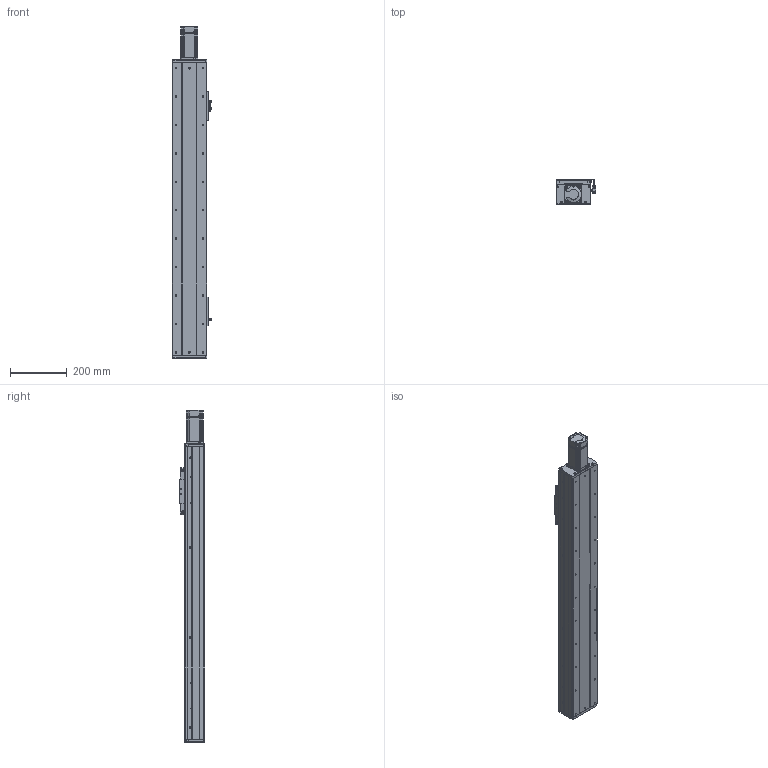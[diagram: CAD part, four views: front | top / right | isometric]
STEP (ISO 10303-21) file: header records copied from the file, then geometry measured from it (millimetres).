
FILE_DESCRIPTION (( 'STEP AP203' ), '1' );
FILE_NAME ('RY120F-L1620-300-MK.SLDASM_750.step', '2021-03-02T06:02:17', ( '盈信电脑' ), ( '东莞市道滘镇水果街19号' ), 'SwSTEP 2.0', 'SolidWorks 2012', '' );
FILE_SCHEMA (( 'CONFIG_CONTROL_DESIGN' ));
Products named in the file (19): RY120F-L1620-300-MK.SLDASM_750; RY120F-臏賑輸 16蹟譫; 滅袉蝶18-28; 672嫖萇羲壽假蚾釱; FY120F詩湍揤踡輸; RY80俋离覜茼え; RY120F綴裔啣(臏璃ㄘ; 滅袉蝶18-24; RY120F-詩湍幗謫粣; 覜茼ん672; 侂狟400W侜督萇儂; RY120F祥凄詩滅鳥裔; 15; RY120F眻蟀ヶ裔啣; 絳寢賑輸EGH15; RY120F-300-倰第裔啣_750; RY120F滅鳥詩湍-300-MK_750; RY120F-臏賑輸奻釱; RY120F-300-倰第菁釱_750
Assembly tree (25 placements, depth 3):
  RY120F-L1620-300-MK.SLDASM_750
    RY120F-300-倰第菁釱_750
    RY120F-300-倰第裔啣_750  x2
    RY120F滅鳥詩湍-300-MK_750
    絳寢賑輸EGH15  x2
    RY120F-臏賑輸奻釱
    侂狟400W侜督萇儂
      15
    RY120F眻蟀ヶ裔啣
    RY120F祥凄詩滅鳥裔
    滅袉蝶18-24
    RY120F綴裔啣(臏璃ㄘ
    RY120F-詩湍幗謫粣
    覜茼ん672  x3
    672嫖萇羲壽假蚾釱  x2
    RY80俋离覜茼え
    FY120F詩湍揤踡輸  x2
    RY120F-臏賑輸 16蹟譫
    滅袉蝶18-28  x2
Bounding box: 140.35 x 89 x 1168.5 mm (x, y, z)
Volume: 3623417.2 mm3; surface area: 1281874.9 mm2
Topology: 24 solids, 24 shells, 2177 faces, 5813 edges, 3729 vertices
Faces by surface type: cylinder 978, plane 966, cone 215, bspline 18
Entity records: 58090 total; most frequent: CARTESIAN_POINT 10365, DIRECTION 9879, ORIENTED_EDGE 9214, EDGE_CURVE 4607, AXIS2_PLACEMENT_3D 3577, VERTEX_POINT 3013, LINE 2725, VECTOR 2725
